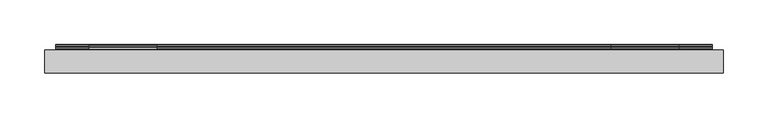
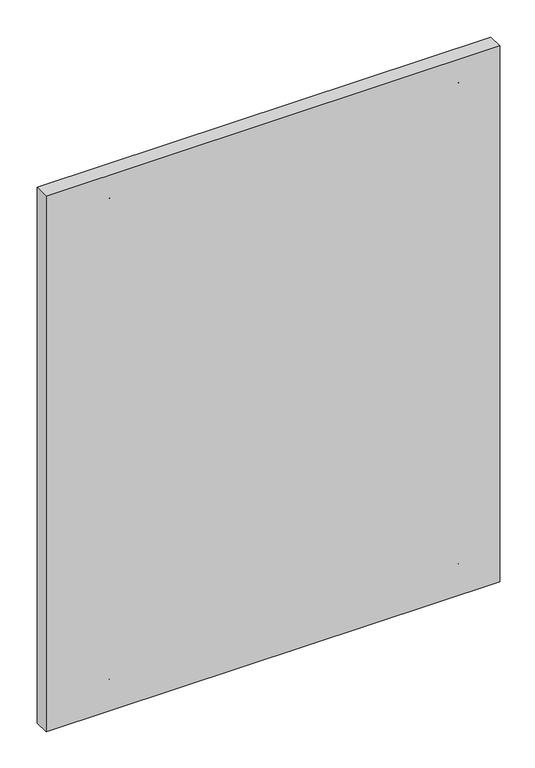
"""IFC4 building model written with IfcOpenShell, lengths in millimetres: furniture geometry, Geiger_GeigerOneCasegoods_WallTileTopTileorWallMountedFabric : RR Fabric 30Wx 1.25Dx 37.5H 1.25 yds."""

from ifc_helpers import new_model, si_unit, point, frame, frame_2d, origin, origin_with_axes, place, context, project, spatial, polyline, circle_curve, trimmed, segment, composite_curve, outline, extrude, source, transform, mapped, element, save


def furniture_b4d1d0ed(model_context):
    return source(origin(), model_context, "Body", "SweptSolid", [
        extrude(outline(composite_curve([segment(polyline([(2.8948, 38.2316), (2.8948, 31.2974), (3.7076, 30.51), (5.6126, 30.51), (6.4, 29.6972), (6.4, -2.002), (5.1046, -2.002), (3.5044, -0.4018), (3.5044, 24.1854), (2.6916, 24.9982), (0.812, 24.9982), (-0.0008, 25.7856), (-0.0008, 39.1968)]), True, "CONTINUOUS"), segment(trimmed(circle_curve(frame_2d((0.8026421, 39.1874421)), 0.8034966), [point((-0.0008, 39.1968))], [point((1.3708, 39.7556))], False, "CARTESIAN"), True, "CONTINUOUS"), segment(polyline([(1.3708, 39.7556), (2.8948, 38.2316)]), True, "CONTINUOUS")], self_intersect=False)), frame((12.5, 0.0, 0.0), z_axis=(1.0, 0.0, 0.0), x_axis=(0.0, 1.0, 0.0)), (0.0, 0.0, 1.0), 737.0),
        extrude(outline(composite_curve([segment(polyline([(3.5052, 32.2904), (3.5052, 39.2246), (2.6924, 40.012), (0.7874, 40.012), (0.0, 40.8248), (0.0, 72.524), (1.2954, 72.524), (2.8956, 70.9238), (2.8956, 46.3366), (3.7084, 45.5238), (5.588, 45.5238), (6.4008, 44.7364), (6.4008, 31.3252)]), True, "CONTINUOUS"), segment(trimmed(circle_curve(frame_2d((5.5973579, 31.3345579)), 0.8034966), [point((6.4008, 31.3252))], [point((5.0292, 30.7664))], False, "CARTESIAN"), True, "CONTINUOUS"), segment(polyline([(5.0292, 30.7664), (3.5052, 32.2904)]), True, "CONTINUOUS")], self_intersect=False)), frame((50.0, 0.0, 0.0), z_axis=(1.0, 0.0, 0.0), x_axis=(0.0, 1.0, 0.0)), (0.0, 0.0, 1.0), 76.0),
        extrude(outline(composite_curve([segment(polyline([(2.8956, 46.3366), (3.7084, 45.5238), (5.588, 45.5238), (6.4008, 44.7364), (6.4008, 31.3252)]), True, "CONTINUOUS"), segment(trimmed(circle_curve(frame_2d((5.5973579, 31.3345579)), 0.8034966), [point((6.4008, 31.3252))], [point((5.0292, 30.7664))], False, "CARTESIAN"), True, "CONTINUOUS"), segment(polyline([(5.0292, 30.7664), (3.5052, 32.2904), (3.5052, 39.2246), (2.6924, 40.012), (0.7874, 40.012), (0.0, 40.8248), (0.0, 72.524), (1.2954, 72.524), (2.8956, 70.9238), (2.8956, 46.3366)]), True, "CONTINUOUS")], self_intersect=False)), frame((636.0, 0.0, 0.0), z_axis=(1.0, 0.0, 0.0), x_axis=(0.0, 1.0, 0.0)), (0.0, 0.0, 1.0), 76.0),
        extrude(outline(composite_curve([segment(polyline([(2.8956, 900.3326), (3.7084, 899.5198), (5.588, 899.5198), (6.4008, 898.7324), (6.4008, 885.3212)]), True, "CONTINUOUS"), segment(trimmed(circle_curve(frame_2d((5.5973579, 885.3305579)), 0.8034966), [point((6.4008, 885.3212))], [point((5.0292, 884.7624))], False, "CARTESIAN"), True, "CONTINUOUS"), segment(polyline([(5.0292, 884.7624), (3.5052, 886.2864), (3.5052, 893.2206), (2.6924, 894.008), (0.7874, 894.008), (0.0, 894.8208), (0.0, 926.52), (1.2954, 926.52), (2.8956, 924.9198), (2.8956, 900.3326)]), True, "CONTINUOUS")], self_intersect=False)), frame((636.0, 0.0, 0.0), z_axis=(1.0, 0.0, 0.0), x_axis=(0.0, 1.0, 0.0)), (0.0, 0.0, 1.0), 76.0),
        extrude(outline(composite_curve([segment(polyline([(3.5052, 886.2864), (3.5052, 893.2206), (2.6924, 894.008), (0.7874, 894.008), (0.0, 894.8208), (0.0, 926.52), (1.2954, 926.52), (2.8956, 924.9198), (2.8956, 900.3326), (3.7084, 899.5198), (5.588, 899.5198), (6.4008, 898.7324), (6.4008, 885.3212)]), True, "CONTINUOUS"), segment(trimmed(circle_curve(frame_2d((5.5973579, 885.3305579)), 0.8034966), [point((6.4008, 885.3212))], [point((5.0292, 884.7624))], False, "CARTESIAN"), True, "CONTINUOUS"), segment(polyline([(5.0292, 884.7624), (3.5052, 886.2864)]), True, "CONTINUOUS")], self_intersect=False)), frame((50.0, 0.0, 0.0), z_axis=(1.0, 0.0, 0.0), x_axis=(0.0, 1.0, 0.0)), (0.0, 0.0, 1.0), 76.0),
        extrude(outline(composite_curve([segment(polyline([(2.8948, 892.2418), (2.8948, 885.3076), (3.7076, 884.5202), (5.6126, 884.5202), (6.4, 883.7074), (6.4, 852.0082), (5.1046, 852.0082), (3.5044, 853.6084), (3.5044, 878.1956), (2.6916, 879.0084), (0.812, 879.0084), (-0.0008, 879.7958), (-0.0008, 893.207)]), True, "CONTINUOUS"), segment(trimmed(circle_curve(frame_2d((0.8026421, 893.1976421)), 0.8034966), [point((-0.0008, 893.207))], [point((1.3708, 893.7658))], False, "CARTESIAN"), True, "CONTINUOUS"), segment(polyline([(1.3708, 893.7658), (2.8948, 892.2418)]), True, "CONTINUOUS")], self_intersect=False)), frame((12.5, 0.0, 0.0), z_axis=(1.0, 0.0, 0.0), x_axis=(0.0, 1.0, 0.0)), (0.0, 0.0, 1.0), 737.0),
        extrude(outline(polyline([(762.0, 0.0), (762.0, -26.0), (0.0, -26.0), (0.0, 0.0), (762.0, 0.0)])), origin_with_axes(), (0.0, 0.0, 1.0), 951.5),
    ])


if __name__ == "__main__":
    model = new_model("IFC4")
    model_context = context("Model", 3, world=origin())
    ifc_project = project(units=[si_unit("LENGTHUNIT", "METRE", prefix="MILLI")], contexts=[model_context])
    site = spatial("IfcSite", under=ifc_project)
    building = spatial("IfcBuilding", under=site)
    placement = place(None, origin())
    furniture_shape = furniture_b4d1d0ed(model_context)
    element("IfcFurniture", 1, ObjectType="Geiger_GeigerOneCasegoods_WallTileTopTileorWallMountedFabric : RR Fabric 30Wx 1.25Dx 37.5H 1.25 yds", at=placement, inside=building, context=model_context, shape_type="MappedRepresentation", body=[
        mapped(furniture_shape, transform((0.0, 0.0, 0.0), x_axis=(1.0, 0.0, 0.0), y_axis=(0.0, 1.0, 0.0), z_axis=(0.0, 0.0, 1.0))),
    ])
    save(model, "model.ifc")
